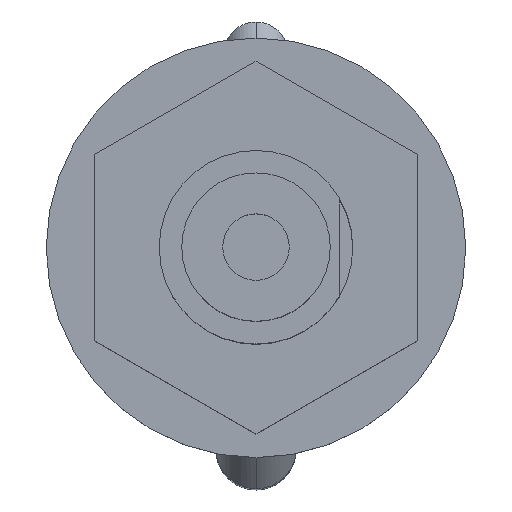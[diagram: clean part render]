
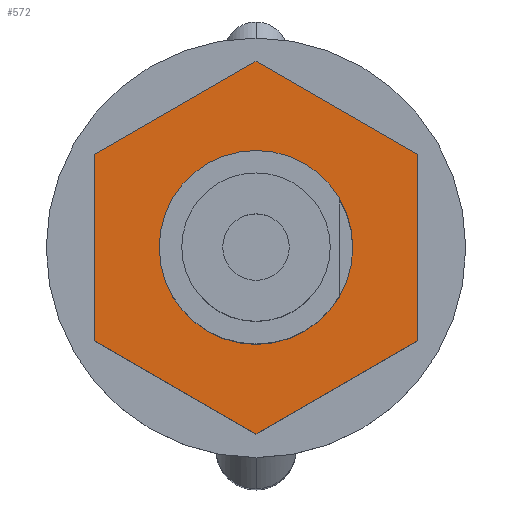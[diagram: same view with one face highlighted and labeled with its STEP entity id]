
A CAD part, top view. The second image highlights one B-rep face of the part: STEP entity #572.
In plain terms, the highlighted planar face has unit normal (0, 0, 1) as drawn and (-1, 0, 0) by its records, which use the part's own axes.
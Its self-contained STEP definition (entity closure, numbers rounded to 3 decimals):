
#34 = EDGE_CURVE ( 'NONE', #44, #87, #658, .T. ) ;
#35 = VERTEX_POINT ( 'NONE', #650 ) ;
#36 = ORIENTED_EDGE ( 'NONE', *, *, #37, .T. ) ;
#37 = EDGE_CURVE ( 'NONE', #87, #35, #649, .T. ) ;
#41 = ORIENTED_EDGE ( 'NONE', *, *, #42, .T. ) ;
#42 = EDGE_CURVE ( 'NONE', #43, #44, #639, .T. ) ;
#43 = VERTEX_POINT ( 'NONE', #635 ) ;
#44 = VERTEX_POINT ( 'NONE', #634 ) ;
#45 = EDGE_CURVE ( 'NONE', #571, #43, #633, .T. ) ;
#74 = ORIENTED_EDGE ( 'NONE', *, *, #75, .F. ) ;
#75 = EDGE_CURVE ( 'NONE', #536, #537, #722, .T. ) ;
#76 = EDGE_CURVE ( 'NONE', #35, #574, #717, .T. ) ;
#77 = EDGE_LOOP ( 'NONE', ( #79, #74 ) ) ;
#79 = ORIENTED_EDGE ( 'NONE', *, *, #538, .F. ) ;
#80 = ORIENTED_EDGE ( 'NONE', *, *, #76, .T. ) ;
#85 = ORIENTED_EDGE ( 'NONE', *, *, #34, .T. ) ;
#87 = VERTEX_POINT ( 'NONE', #749 ) ;
#536 = VERTEX_POINT ( 'NONE', #1432 ) ;
#537 = VERTEX_POINT ( 'NONE', #1431 ) ;
#538 = EDGE_CURVE ( 'NONE', #537, #536, #1430, .T. ) ;
#568 = ORIENTED_EDGE ( 'NONE', *, *, #45, .T. ) ;
#569 = ORIENTED_EDGE ( 'NONE', *, *, #570, .T. ) ;
#570 = EDGE_CURVE ( 'NONE', #574, #571, #1474, .T. ) ;
#571 = VERTEX_POINT ( 'NONE', #1470 ) ;
#572 = ADVANCED_FACE ( 'NONE', ( #1469, #1468 ), #1467, .F. ) ;
#574 = VERTEX_POINT ( 'NONE', #1462 ) ;
#576 = EDGE_LOOP ( 'NONE', ( #569, #568, #41, #85, #36, #80 ) ) ;
#630 = DIRECTION ( 'NONE',  ( 0., -0.5, -0.866 ) ) ;
#631 = VECTOR ( 'NONE', #630, 1000. ) ;
#632 = CARTESIAN_POINT ( 'NONE',  ( 4.1, 2.887, 0. ) ) ;
#633 = LINE ( 'NONE', #632, #631 ) ;
#634 = CARTESIAN_POINT ( 'NONE',  ( 4.1, -1.443, -2.5 ) ) ;
#635 = CARTESIAN_POINT ( 'NONE',  ( 4.1, 1.443, -2.5 ) ) ;
#636 = DIRECTION ( 'NONE',  ( 0., -1., 0. ) ) ;
#637 = VECTOR ( 'NONE', #636, 1000. ) ;
#638 = CARTESIAN_POINT ( 'NONE',  ( 4.1, 1.443, -2.5 ) ) ;
#639 = LINE ( 'NONE', #638, #637 ) ;
#646 = DIRECTION ( 'NONE',  ( 0., 0.5, 0.866 ) ) ;
#647 = VECTOR ( 'NONE', #646, 1000. ) ;
#648 = CARTESIAN_POINT ( 'NONE',  ( 4.1, -2.887, 0. ) ) ;
#649 = LINE ( 'NONE', #648, #647 ) ;
#650 = CARTESIAN_POINT ( 'NONE',  ( 4.1, -1.443, 2.5 ) ) ;
#651 = DIRECTION ( 'NONE',  ( 0., -0.5, 0.866 ) ) ;
#652 = VECTOR ( 'NONE', #651, 1000. ) ;
#653 = CARTESIAN_POINT ( 'NONE',  ( 4.1, -1.443, -2.5 ) ) ;
#658 = LINE ( 'NONE', #653, #652 ) ;
#714 = DIRECTION ( 'NONE',  ( 0., 1., 0. ) ) ;
#715 = VECTOR ( 'NONE', #714, 1000. ) ;
#716 = CARTESIAN_POINT ( 'NONE',  ( 4.1, -1.443, 2.5 ) ) ;
#717 = LINE ( 'NONE', #716, #715 ) ;
#718 = DIRECTION ( 'NONE',  ( 0., -1., 0. ) ) ;
#719 = DIRECTION ( 'NONE',  ( -1., 0., 0. ) ) ;
#720 = CARTESIAN_POINT ( 'NONE',  ( 4.1, 0., 0. ) ) ;
#721 = AXIS2_PLACEMENT_3D ( 'NONE', #720, #719, #718 ) ;
#722 = CIRCLE ( 'NONE', #721, 1.5 ) ;
#749 = CARTESIAN_POINT ( 'NONE',  ( 4.1, -2.887, 0. ) ) ;
#1430 = CIRCLE ( 'NONE', #1495, 1.5 ) ;
#1431 = CARTESIAN_POINT ( 'NONE',  ( 4.1, 1.5, 0. ) ) ;
#1432 = CARTESIAN_POINT ( 'NONE',  ( 4.1, -1.5, 0. ) ) ;
#1462 = CARTESIAN_POINT ( 'NONE',  ( 4.1, 1.443, 2.5 ) ) ;
#1463 = DIRECTION ( 'NONE',  ( 0., 1., 0. ) ) ;
#1464 = DIRECTION ( 'NONE',  ( 1., 0., 0. ) ) ;
#1465 = CARTESIAN_POINT ( 'NONE',  ( 4.1, 0., 5. ) ) ;
#1466 = AXIS2_PLACEMENT_3D ( 'NONE', #1465, #1464, #1463 ) ;
#1467 = PLANE ( 'NONE',  #1466 ) ;
#1468 = FACE_BOUND ( 'NONE', #77, .T. ) ;
#1469 = FACE_OUTER_BOUND ( 'NONE', #576, .T. ) ;
#1470 = CARTESIAN_POINT ( 'NONE',  ( 4.1, 2.887, 0. ) ) ;
#1471 = DIRECTION ( 'NONE',  ( 0., 0.5, -0.866 ) ) ;
#1472 = VECTOR ( 'NONE', #1471, 1000. ) ;
#1473 = CARTESIAN_POINT ( 'NONE',  ( 4.1, 1.443, 2.5 ) ) ;
#1474 = LINE ( 'NONE', #1473, #1472 ) ;
#1492 = DIRECTION ( 'NONE',  ( 0., -1., 0. ) ) ;
#1493 = DIRECTION ( 'NONE',  ( -1., 0., 0. ) ) ;
#1494 = CARTESIAN_POINT ( 'NONE',  ( 4.1, 0., 0. ) ) ;
#1495 = AXIS2_PLACEMENT_3D ( 'NONE', #1494, #1493, #1492 ) ;
